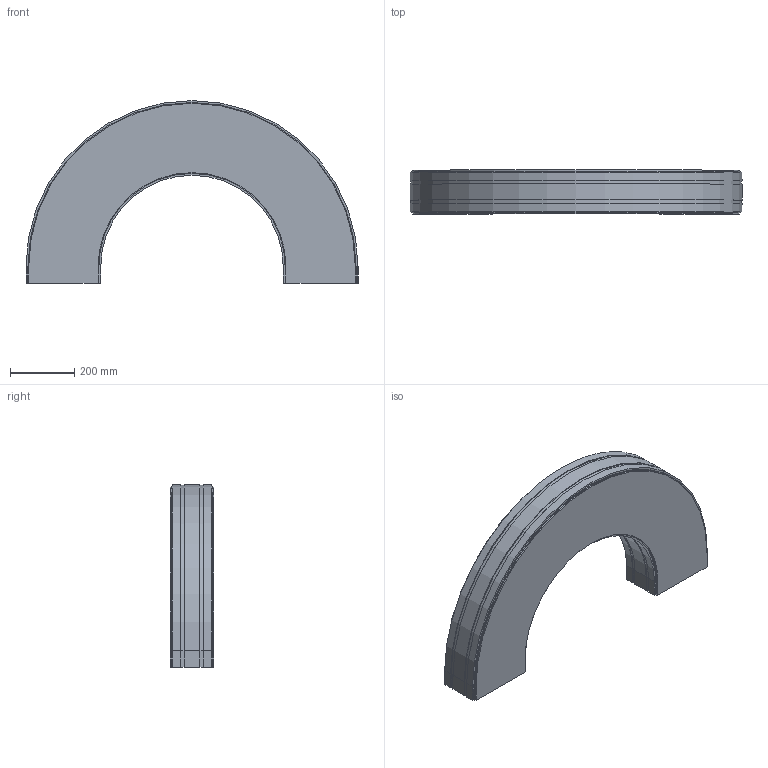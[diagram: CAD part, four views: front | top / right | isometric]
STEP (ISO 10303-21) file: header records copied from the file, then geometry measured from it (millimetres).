
FILE_DESCRIPTION (( 'STEP AP214' ), '1' );
FILE_NAME ('FS-MTC2-150-INOX horizontaalbocht.230 180°.STEP', '2017-02-08T12:40:28', ( '' ), ( '' ), 'SwSTEP 2.0', 'SolidWorks 2016', '' );
FILE_SCHEMA (( 'AUTOMOTIVE_DESIGN' ));
Length unit declared in the file: millimetre
Products named in the file (1): FS-MTC2-150-INOX horizontaalbocht.230 180°
Bounding box: 1032.5 x 136.5 x 568.75 mm (x, y, z)
Volume: 42791419 mm3; surface area: 1094973.8 mm2
Topology: 1 solids, 1 shells, 74 faces, 216 edges, 144 vertices
Faces by surface type: plane 56, cylinder 18
Entity records: 2470 total; most frequent: CARTESIAN_POINT 435, ORIENTED_EDGE 432, DIRECTION 402, EDGE_CURVE 216, LINE 180, VECTOR 180, VERTEX_POINT 144, AXIS2_PLACEMENT_3D 111
